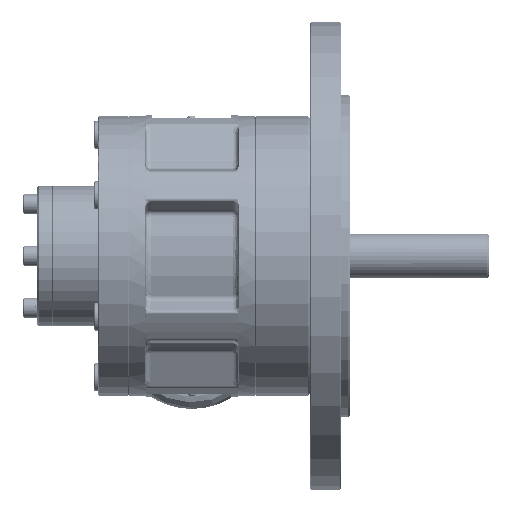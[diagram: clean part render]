
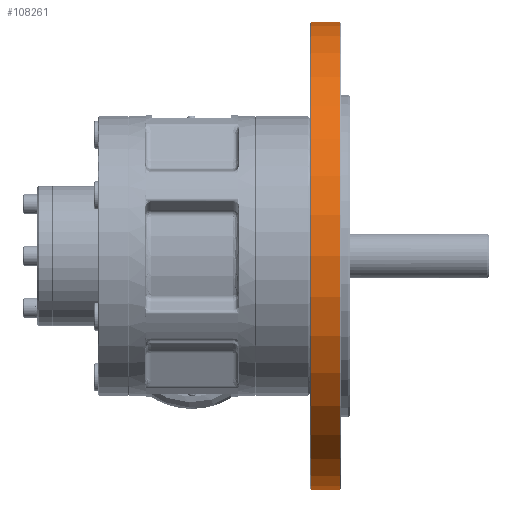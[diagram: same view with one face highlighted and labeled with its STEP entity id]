
A CAD part, front view. The second image highlights one B-rep face of the part: STEP entity #108261.
In plain terms, the highlighted cylindrical face has radius 83 mm (diameter 166 mm), a partial arc.
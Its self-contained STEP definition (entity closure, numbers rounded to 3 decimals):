
#1247 = EDGE_CURVE ( 'NONE', #171323, #79674, #169949, .T. ) ;
#5320 = CARTESIAN_POINT ( 'NONE',  ( 52.5, 4., 0. ) ) ;
#23589 = CARTESIAN_POINT ( 'NONE',  ( 42.3, 4., 0. ) ) ;
#24225 = VECTOR ( 'NONE', #55462, 1000. ) ;
#27092 = ORIENTED_EDGE ( 'NONE', *, *, #135051, .F. ) ;
#37957 = FACE_OUTER_BOUND ( 'NONE', #179649, .T. ) ;
#39195 = ORIENTED_EDGE ( 'NONE', *, *, #125100, .T. ) ;
#44337 = CARTESIAN_POINT ( 'NONE',  ( 42.3, 4., 83. ) ) ;
#46580 = EDGE_CURVE ( 'NONE', #171323, #119714, #86707, .T. ) ;
#47326 = AXIS2_PLACEMENT_3D ( 'NONE', #5320, #165005, #99537 ) ;
#49515 = DIRECTION ( 'NONE',  ( -1., 0., 0. ) ) ;
#55462 = DIRECTION ( 'NONE',  ( -1., 0., 0. ) ) ;
#56829 = ORIENTED_EDGE ( 'NONE', *, *, #46580, .T. ) ;
#57414 = DIRECTION ( 'NONE',  ( 0., 0., -1. ) ) ;
#61376 = CARTESIAN_POINT ( 'NONE',  ( 52.5, 4., -83. ) ) ;
#79674 = VERTEX_POINT ( 'NONE', #127969 ) ;
#86707 = CIRCLE ( 'NONE', #47326, 83. ) ;
#86960 = VECTOR ( 'NONE', #49515, 1000. ) ;
#87144 = LINE ( 'NONE', #152496, #24225 ) ;
#99537 = DIRECTION ( 'NONE',  ( 0., 0., 1. ) ) ;
#105125 = DIRECTION ( 'NONE',  ( -1., 0., 0. ) ) ;
#108261 = ADVANCED_FACE ( 'NONE', ( #37957 ), #131011, .T. ) ;
#112648 = DIRECTION ( 'NONE',  ( -1., 0., 0. ) ) ;
#119714 = VERTEX_POINT ( 'NONE', #197750 ) ;
#125100 = EDGE_CURVE ( 'NONE', #119714, #133649, #87144, .T. ) ;
#127969 = CARTESIAN_POINT ( 'NONE',  ( 42.3, 4., -83. ) ) ;
#131011 = CYLINDRICAL_SURFACE ( 'NONE', #195416, 83. ) ;
#133649 = VERTEX_POINT ( 'NONE', #44337 ) ;
#135051 = EDGE_CURVE ( 'NONE', #79674, #133649, #151180, .T. ) ;
#145696 = DIRECTION ( 'NONE',  ( 0., 0., 1. ) ) ;
#151180 = CIRCLE ( 'NONE', #208295, 83. ) ;
#152496 = CARTESIAN_POINT ( 'NONE',  ( 39.8, 4., 83. ) ) ;
#161314 = ORIENTED_EDGE ( 'NONE', *, *, #1247, .F. ) ;
#165005 = DIRECTION ( 'NONE',  ( -1., 0., 0. ) ) ;
#169949 = LINE ( 'NONE', #191562, #86960 ) ;
#171323 = VERTEX_POINT ( 'NONE', #61376 ) ;
#176693 = CARTESIAN_POINT ( 'NONE',  ( 39.8, 4., 0. ) ) ;
#179649 = EDGE_LOOP ( 'NONE', ( #161314, #56829, #39195, #27092 ) ) ;
#191562 = CARTESIAN_POINT ( 'NONE',  ( 39.8, 4., -83. ) ) ;
#195416 = AXIS2_PLACEMENT_3D ( 'NONE', #176693, #112648, #145696 ) ;
#197750 = CARTESIAN_POINT ( 'NONE',  ( 52.5, 4., 83. ) ) ;
#208295 = AXIS2_PLACEMENT_3D ( 'NONE', #23589, #105125, #57414 ) ;
